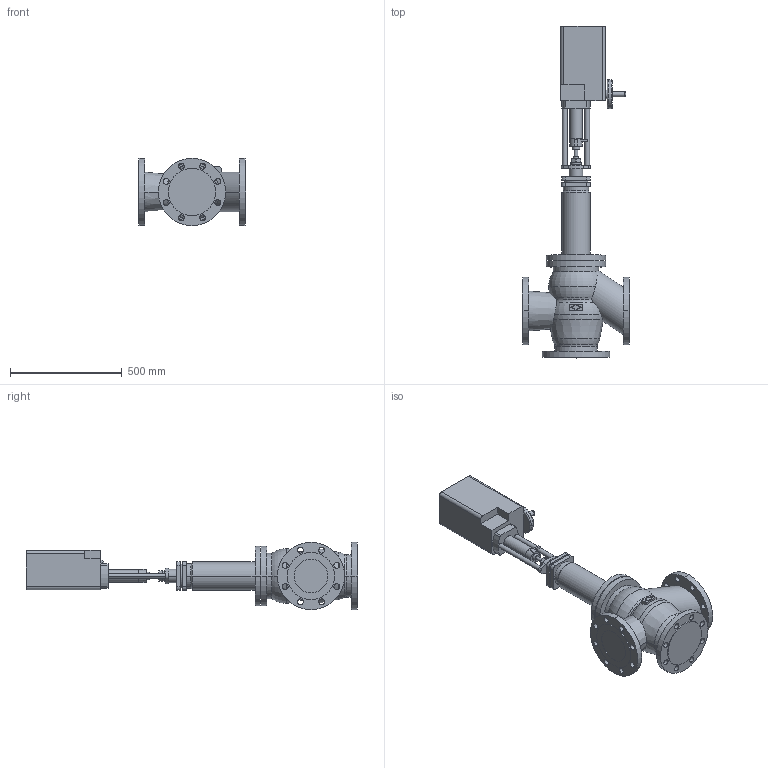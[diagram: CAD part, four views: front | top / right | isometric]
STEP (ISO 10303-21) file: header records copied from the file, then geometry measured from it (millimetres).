
FILE_DESCRIPTION(('OneSpaceDesigner STEP Export'),'2;1');
FILE_NAME('c000002478.stp','2006-09-21T12:02:39',(''),(''),'OneSpace Designer STEP processor for AP214 (Solid Model)','OneSpace Designer 13.20A 18-Aug-2005 (C) CoCreate Software GmbH','');
FILE_SCHEMA(('AUTOMOTIVE_DESIGN { 1 0 10303 214 1 1 1 1 }'));
Length unit declared in the file: millimetre
Products named in the file (2): 1; 2
Bounding box: 480 x 1483.7 x 300 mm (x, y, z)
Volume: 46303736.1 mm3; surface area: 1604228.3 mm2
Topology: 2 solids, 2 shells, 265 faces, 661 edges, 436 vertices
Faces by surface type: cylinder 130, plane 107, torus 22, cone 6
Entity records: 7401 total; most frequent: CARTESIAN_POINT 1442, ORIENTED_EDGE 1322, DIRECTION 1101, EDGE_CURVE 661, VERTEX_POINT 436, AXIS2_PLACEMENT_3D 399, EDGE_LOOP 349, VECTOR 303
